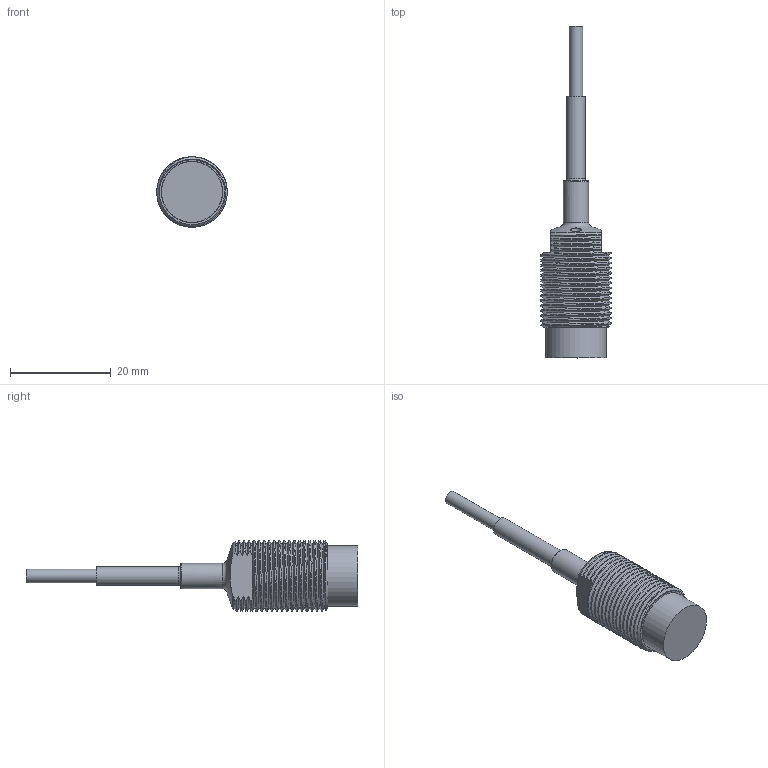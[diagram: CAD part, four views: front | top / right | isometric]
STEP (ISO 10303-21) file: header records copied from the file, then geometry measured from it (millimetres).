
FILE_DESCRIPTION( ( 'STEP AP214' ), '1' );
FILE_NAME( 'N:/Engineering/CAD_Solid/Wirbelstrom/Wirbelstromsensoren/T4/T4_G_KA.stp', '2011-07-05T10:05:09', ( ' ' ), ( ' ' ), 'XStep 1.0', ' ', ' ' );
FILE_SCHEMA( ( 'CONFIG_CONTROL_DESIGN) ( )' ) );
Length unit declared in the file: metre
Products named in the file (3): 1; 2; 3
Bounding box: 14 x 66 x 14 mm (x, y, z)
Surface area: 2698.9 mm2 (no closed solid volume)
Topology: 0 solids, 60 shells, 60 faces, 303 edges, 288 vertices
Faces by surface type: bspline 27, cylinder 13, plane 10, cone 7, torus 3
Full cylindrical faces by diameter (mm): 2 x2, 2.7 x1, 3.7 x1, 5 x1, 12.1 x1
Entity records: 36441 total; most frequent: CARTESIAN_POINT 34776, ORIENTED_EDGE 276, EDGE_CURVE 276, VERTEX_POINT 276, DIRECTION 184, B_SPLINE_CURVE_WITH_KNOTS 140, FACE_BOUND 78, EDGE_LOOP 78
